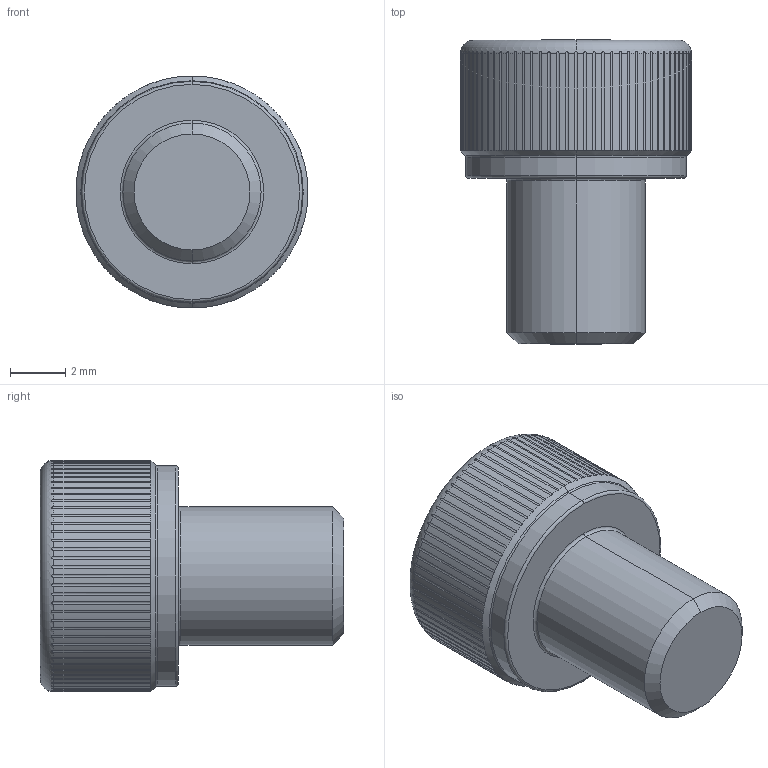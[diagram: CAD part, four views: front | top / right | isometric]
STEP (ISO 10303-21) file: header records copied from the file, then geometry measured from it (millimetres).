
FILE_DESCRIPTION (( 'STEP AP203' ), '1' );
FILE_NAME ('LGDT-304-M5x6.STEP', '2026-08-10T02:07:42', ( '' ), ( '' ), 'SwSTEP 2.0', 'SolidWorks 2020', '' );
FILE_SCHEMA (( 'CONFIG_CONTROL_DESIGN' ));
Length unit declared in the file: millimetre
Products named in the file (1): LGDT-304-M5x6
Bounding box: 8.4 x 11 x 8.4 mm (x, y, z)
Volume: 345.8 mm3; surface area: 362.9 mm2
Topology: 1 solids, 1 shells, 204 faces, 576 edges, 376 vertices
Faces by surface type: cylinder 175, cone 11, plane 10, torus 8
Entity records: 8367 total; most frequent: CARTESIAN_POINT 3208, ORIENTED_EDGE 1152, DIRECTION 988, EDGE_CURVE 576, AXIS2_PLACEMENT_3D 398, VERTEX_POINT 376, EDGE_LOOP 206, ADVANCED_FACE 204
